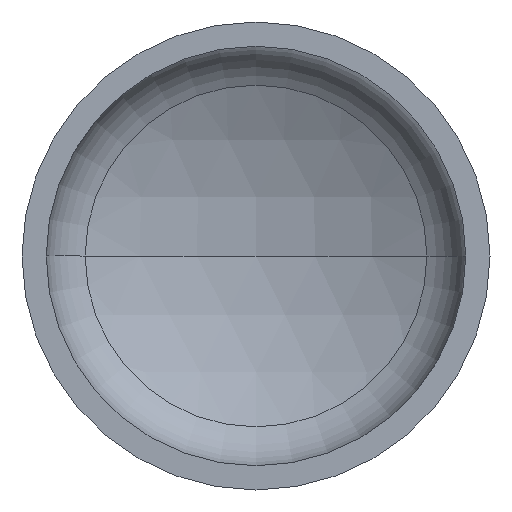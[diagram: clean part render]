
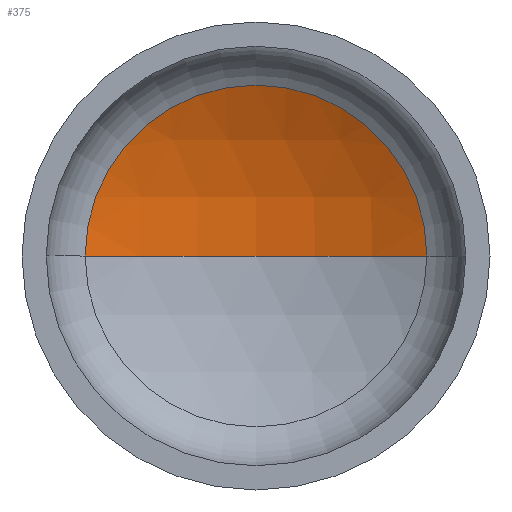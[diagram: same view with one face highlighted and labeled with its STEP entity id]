
A CAD part, front view. The second image highlights one B-rep face of the part: STEP entity #375.
In plain terms, the highlighted spherical face has radius 1360 mm.
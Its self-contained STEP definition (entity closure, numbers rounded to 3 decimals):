
#3 = EDGE_LOOP ( 'NONE', ( #93, #60, #98 ) ) ;
#33 = VERTEX_POINT ( 'NONE', #294 ) ;
#36 = EDGE_CURVE ( 'NONE', #84, #58, #305, .T. ) ;
#54 = CIRCLE ( 'NONE', #381, 620.655 ) ;
#58 = VERTEX_POINT ( 'NONE', #220 ) ;
#60 = ORIENTED_EDGE ( 'NONE', *, *, #132, .T. ) ;
#84 = VERTEX_POINT ( 'NONE', #344 ) ;
#93 = ORIENTED_EDGE ( 'NONE', *, *, #36, .F. ) ;
#98 = ORIENTED_EDGE ( 'NONE', *, *, #154, .T. ) ;
#108 = DIRECTION ( 'NONE',  ( -1., 0., 0. ) ) ;
#120 = FACE_OUTER_BOUND ( 'NONE', #3, .T. ) ;
#124 = DIRECTION ( 'NONE',  ( 0., 0., -1. ) ) ;
#132 = EDGE_CURVE ( 'NONE', #84, #33, #297, .T. ) ;
#139 = DIRECTION ( 'NONE',  ( -1., 0., 0. ) ) ;
#154 = EDGE_CURVE ( 'NONE', #33, #58, #54, .T. ) ;
#159 = CARTESIAN_POINT ( 'NONE',  ( 0., -878.773, 0. ) ) ;
#208 = AXIS2_PLACEMENT_3D ( 'NONE', #159, #124, #139 ) ;
#220 = CARTESIAN_POINT ( 'NONE',  ( -620.655, 331.346, 0. ) ) ;
#223 = DIRECTION ( 'NONE',  ( 1., 0., 0. ) ) ;
#239 = DIRECTION ( 'NONE',  ( 0., 0., 1. ) ) ;
#244 = CARTESIAN_POINT ( 'NONE',  ( 0., -878.773, 0. ) ) ;
#257 = SPHERICAL_SURFACE ( 'NONE', #208, 1360. ) ;
#294 = CARTESIAN_POINT ( 'NONE',  ( 620.655, 331.346, 0. ) ) ;
#297 = CIRCLE ( 'NONE', #321, 1360. ) ;
#303 = AXIS2_PLACEMENT_3D ( 'NONE', #244, #239, #223 ) ;
#305 = CIRCLE ( 'NONE', #303, 1360. ) ;
#311 = DIRECTION ( 'NONE',  ( 1., 0., 0. ) ) ;
#315 = DIRECTION ( 'NONE',  ( 0., -1., 0. ) ) ;
#316 = CARTESIAN_POINT ( 'NONE',  ( 0., 331.346, 0. ) ) ;
#321 = AXIS2_PLACEMENT_3D ( 'NONE', #363, #360, #108 ) ;
#344 = CARTESIAN_POINT ( 'NONE',  ( 0., 481.227, 0. ) ) ;
#360 = DIRECTION ( 'NONE',  ( 0., 0., -1. ) ) ;
#363 = CARTESIAN_POINT ( 'NONE',  ( 0., -878.773, 0. ) ) ;
#375 = ADVANCED_FACE ( 'NONE', ( #120 ), #257, .F. ) ;
#381 = AXIS2_PLACEMENT_3D ( 'NONE', #316, #315, #311 ) ;
